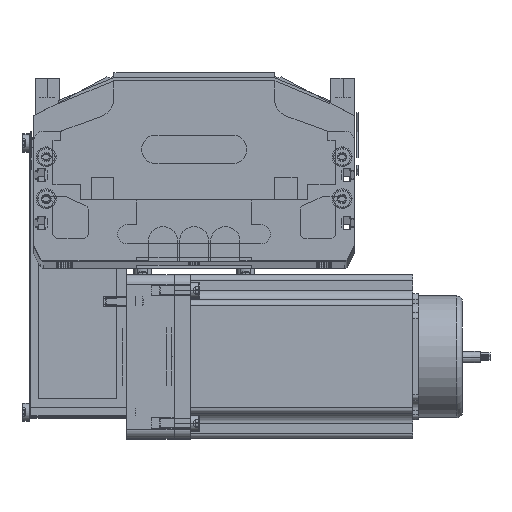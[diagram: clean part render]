
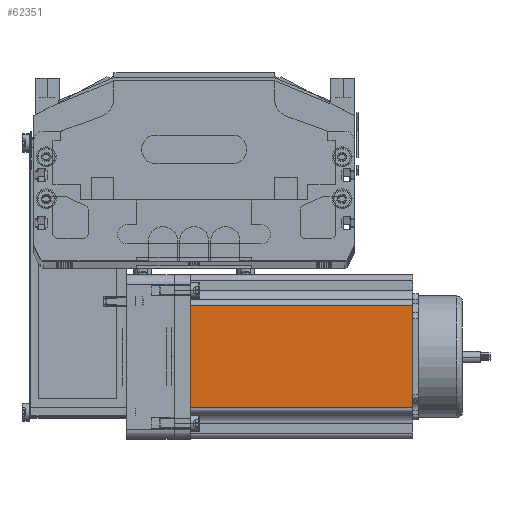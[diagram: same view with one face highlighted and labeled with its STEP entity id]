
A CAD part, top view. The second image highlights one B-rep face of the part: STEP entity #62351.
In plain terms, the highlighted planar face has unit normal (0, 0, 1) as drawn and (0, -1, 0) by its records, which use the part's own axes.
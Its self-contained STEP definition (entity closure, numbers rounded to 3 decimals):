
#59529 = CARTESIAN_POINT ( 'NONE',  ( 16.16, 0., 116.5 ) ) ;
#59647 = LINE ( 'NONE', #59529, #59935 ) ;
#59907 = DIRECTION ( 'NONE',  ( 0., 0., -1. ) ) ;
#59935 = VECTOR ( 'NONE', #59907, 1000. ) ;
#60606 = DIRECTION ( 'NONE',  ( 0., 1., 0. ) ) ;
#60612 = PLANE ( 'NONE',  #60623 ) ;
#60613 = FACE_OUTER_BOUND ( 'NONE', #62535, .T. ) ;
#60622 = CARTESIAN_POINT ( 'NONE',  ( 0., 0., 116.5 ) ) ;
#60623 = AXIS2_PLACEMENT_3D ( 'NONE', #60622, #60606, #60641 ) ;
#60641 = DIRECTION ( 'NONE',  ( 0., 0., 1. ) ) ;
#61359 = LINE ( 'NONE', #61402, #61563 ) ;
#61402 = CARTESIAN_POINT ( 'NONE',  ( 0., 0., 116.5 ) ) ;
#61563 = VECTOR ( 'NONE', #61565, 1000. ) ;
#61565 = DIRECTION ( 'NONE',  ( 1., 0., 0. ) ) ;
#62351 = ADVANCED_FACE ( 'NONE', ( #60613 ), #60612, .F. ) ;
#62352 = ORIENTED_EDGE ( 'NONE', *, *, #62513, .F. ) ;
#62357 = EDGE_CURVE ( 'NONE', #62505, #62550, #59647, .T. ) ;
#62505 = VERTEX_POINT ( 'NONE', #63726 ) ;
#62511 = ORIENTED_EDGE ( 'NONE', *, *, #62547, .T. ) ;
#62513 = EDGE_CURVE ( 'NONE', #62505, #62522, #61359, .T. ) ;
#62522 = VERTEX_POINT ( 'NONE', #64540 ) ;
#62535 = EDGE_LOOP ( 'NONE', ( #62549, #62511, #62352, #62655 ) ) ;
#62547 = EDGE_CURVE ( 'NONE', #62551, #62522, #64626, .T. ) ;
#62549 = ORIENTED_EDGE ( 'NONE', *, *, #62553, .T. ) ;
#62550 = VERTEX_POINT ( 'NONE', #64741 ) ;
#62551 = VERTEX_POINT ( 'NONE', #64577 ) ;
#62553 = EDGE_CURVE ( 'NONE', #62550, #62551, #64511, .T. ) ;
#62655 = ORIENTED_EDGE ( 'NONE', *, *, #62357, .T. ) ;
#63726 = CARTESIAN_POINT ( 'NONE',  ( 16.16, 0., 116.5 ) ) ;
#64419 = DIRECTION ( 'NONE',  ( 1., 0., 0. ) ) ;
#64421 = VECTOR ( 'NONE', #64419, 1000. ) ;
#64422 = CARTESIAN_POINT ( 'NONE',  ( 0., 0., 0. ) ) ;
#64511 = LINE ( 'NONE', #64422, #64421 ) ;
#64540 = CARTESIAN_POINT ( 'NONE',  ( 69.74, 0., 116.5 ) ) ;
#64577 = CARTESIAN_POINT ( 'NONE',  ( 69.74, 0., 0. ) ) ;
#64622 = DIRECTION ( 'NONE',  ( 0., 0., 1. ) ) ;
#64623 = VECTOR ( 'NONE', #64622, 1000. ) ;
#64625 = CARTESIAN_POINT ( 'NONE',  ( 69.74, 0., 116.5 ) ) ;
#64626 = LINE ( 'NONE', #64625, #64623 ) ;
#64741 = CARTESIAN_POINT ( 'NONE',  ( 16.16, 0., 0. ) ) ;
